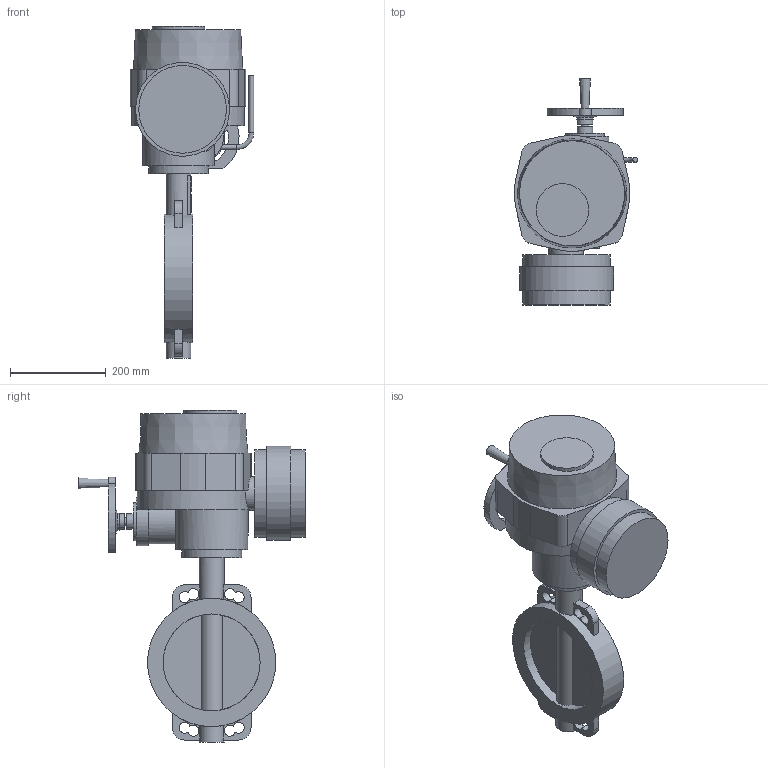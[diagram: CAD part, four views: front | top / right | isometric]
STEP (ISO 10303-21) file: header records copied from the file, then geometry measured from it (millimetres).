
FILE_DESCRIPTION(('STEP AP203'), '1');
FILE_NAME('青蜮铕 017W.ZS DN200+菹 QT.A030', '', ('UNSPECIFIED'), ('UNSPECIFIED'), 'ASCON STEP Converter 1.6', 'ASCON Math Kernel', '');
FILE_SCHEMA(('CONFIG_CONTROL_DESIGN'));
Length unit declared in the file: millimetre
Bounding box: 257.68 x 472 x 693 mm (x, y, z)
Volume: 14315401.2 mm3; surface area: 757812.8 mm2
Topology: 1 solids, 4 shells, 873 faces, 2527 edges, 1628 vertices
Faces by surface type: cylinder 650, plane 219, cone 3, torus 1
Full cylindrical faces by diameter (mm): 6.7 x8, 10 x2, 12 x4, 16 x1, 22.1 x1, 32 x2, 35 x2, 52 x2, 70 x2, 80 x1, 100 x1, 110 x1, 125 x1, 150 x1, 183 x2, 196 x1, 202.4 x2, 268 x1
Entity records: 37427 total; most frequent: CARTESIAN_POINT 6261, DIRECTION 5595, ORIENTED_EDGE 4900, EDGE_CURVE 2489, AXIS2_PLACEMENT_3D 2258, VERTEX_POINT 1628, CIRCLE 1385, LINE 1079
